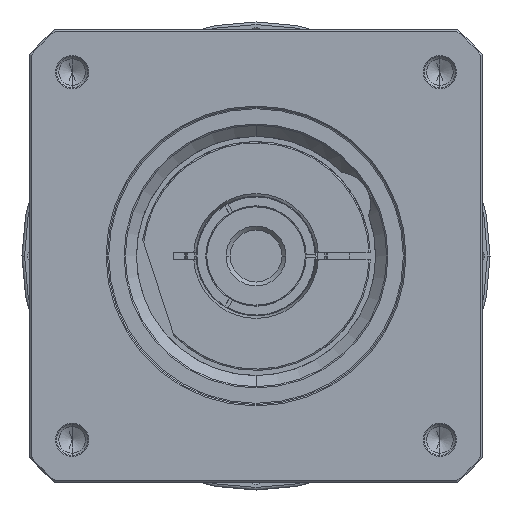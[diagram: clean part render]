
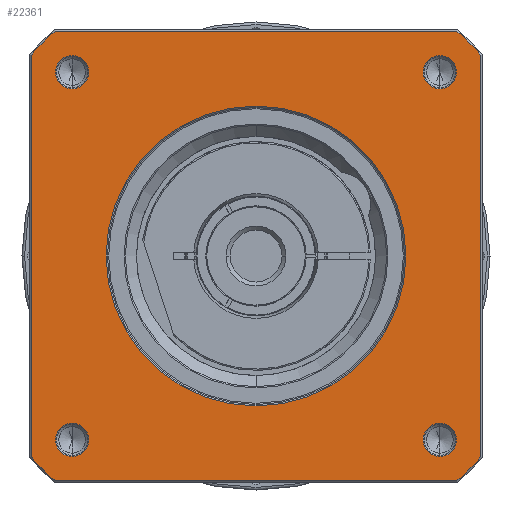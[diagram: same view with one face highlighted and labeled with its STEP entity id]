
A CAD part, left-side view. The second image highlights one B-rep face of the part: STEP entity #22361.
In plain terms, the highlighted planar face has unit normal (-1, 0, 0) as drawn and (0, 0, 1) by its records, which use the part's own axes.
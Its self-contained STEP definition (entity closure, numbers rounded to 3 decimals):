
#21112=CARTESIAN_POINT('',(0.,0.,
76.));
#21113=DIRECTION('',(0.,0.,-1.));
#21114=DIRECTION('',(0.,-1.,0.));
#21115=AXIS2_PLACEMENT_3D('',#21112,#21113,#21114);
#21117=CARTESIAN_POINT('',(0.,0.,
76.));
#21118=DIRECTION('',(0.,0.,-1.));
#21119=DIRECTION('',(0.,1.,0.));
#21120=AXIS2_PLACEMENT_3D('',#21117,#21118,#21119);
#21122=CARTESIAN_POINT('',(0.,0.,76.));
#21123=DIRECTION('',(0.,0.,1.));
#21124=DIRECTION('',(-0.746,-0.666,0.));
#21125=AXIS2_PLACEMENT_3D('',#21122,#21123,#21124);
#21137=DIRECTION('',(1.,0.,0.));
#21138=VECTOR('',#21137,154.58);
#21139=CARTESIAN_POINT('',(-77.29,-86.5,76.));
#21140=LINE('',#21139,#21138);
#21150=CARTESIAN_POINT('',(0.,0.,76.));
#21151=DIRECTION('',(0.,0.,1.));
#21152=DIRECTION('',(0.666,-0.746,0.));
#21153=AXIS2_PLACEMENT_3D('',#21150,#21151,#21152);
#21165=DIRECTION('',(0.,1.,0.));
#21166=VECTOR('',#21165,154.58);
#21167=CARTESIAN_POINT('',(86.5,-77.29,76.));
#21168=LINE('',#21167,#21166);
#21178=CARTESIAN_POINT('',(0.,0.,76.));
#21179=DIRECTION('',(0.,0.,1.));
#21180=DIRECTION('',(0.746,0.666,0.));
#21181=AXIS2_PLACEMENT_3D('',#21178,#21179,#21180);
#21193=DIRECTION('',(-1.,0.,0.));
#21194=VECTOR('',#21193,154.58);
#21195=CARTESIAN_POINT('',(77.29,86.5,76.));
#21196=LINE('',#21195,#21194);
#21201=CARTESIAN_POINT('',(0.,0.,76.));
#21202=DIRECTION('',(0.,0.,1.));
#21203=DIRECTION('',(-0.666,0.746,0.));
#21204=AXIS2_PLACEMENT_3D('',#21201,#21202,#21203);
#21221=DIRECTION('',(0.,-1.,0.));
#21222=VECTOR('',#21221,154.58);
#21223=CARTESIAN_POINT('',(-86.5,77.29,76.));
#21224=LINE('',#21223,#21222);
#21307=CARTESIAN_POINT('',(-70.711,70.711,76.));
#21308=DIRECTION('',(0.,0.,1.));
#21309=DIRECTION('',(-1.,0.,0.));
#21310=AXIS2_PLACEMENT_3D('',#21307,#21308,#21309);
#21325=CARTESIAN_POINT('',(-70.711,70.711,76.));
#21326=DIRECTION('',(0.,0.,1.));
#21327=DIRECTION('',(1.,0.,0.));
#21328=AXIS2_PLACEMENT_3D('',#21325,#21326,#21327);
#21361=CARTESIAN_POINT('',(70.711,70.711,76.));
#21362=DIRECTION('',(0.,0.,1.));
#21363=DIRECTION('',(-1.,0.,0.));
#21364=AXIS2_PLACEMENT_3D('',#21361,#21362,#21363);
#21379=CARTESIAN_POINT('',(70.711,70.711,76.));
#21380=DIRECTION('',(0.,0.,1.));
#21381=DIRECTION('',(1.,0.,0.));
#21382=AXIS2_PLACEMENT_3D('',#21379,#21380,#21381);
#21415=CARTESIAN_POINT('',(70.711,-70.711,76.));
#21416=DIRECTION('',(0.,0.,1.));
#21417=DIRECTION('',(-1.,0.,0.));
#21418=AXIS2_PLACEMENT_3D('',#21415,#21416,#21417);
#21433=CARTESIAN_POINT('',(70.711,-70.711,76.));
#21434=DIRECTION('',(0.,0.,1.));
#21435=DIRECTION('',(1.,0.,0.));
#21436=AXIS2_PLACEMENT_3D('',#21433,#21434,#21435);
#21469=CARTESIAN_POINT('',(-70.711,-70.711,76.));
#21470=DIRECTION('',(0.,0.,1.));
#21471=DIRECTION('',(-1.,0.,0.));
#21472=AXIS2_PLACEMENT_3D('',#21469,#21470,#21471);
#21487=CARTESIAN_POINT('',(-70.711,-70.711,76.));
#21488=DIRECTION('',(0.,0.,1.));
#21489=DIRECTION('',(1.,0.,0.));
#21490=AXIS2_PLACEMENT_3D('',#21487,#21488,#21489);
#21619=CARTESIAN_POINT('',(86.5,-77.29,76.));
#21620=CARTESIAN_POINT('',(86.5,77.29,76.));
#21621=VERTEX_POINT('',#21619);
#21622=VERTEX_POINT('',#21620);
#21627=CARTESIAN_POINT('',(77.29,-86.5,76.));
#21628=VERTEX_POINT('',#21627);
#21631=CARTESIAN_POINT('',(-77.29,-86.5,76.));
#21632=VERTEX_POINT('',#21631);
#21635=CARTESIAN_POINT('',(-86.5,-77.29,76.));
#21636=VERTEX_POINT('',#21635);
#21639=CARTESIAN_POINT('',(-86.5,77.29,76.));
#21640=VERTEX_POINT('',#21639);
#21643=CARTESIAN_POINT('',(-77.29,86.5,76.));
#21644=VERTEX_POINT('',#21643);
#21647=CARTESIAN_POINT('',(77.29,86.5,76.));
#21648=VERTEX_POINT('',#21647);
#21657=CARTESIAN_POINT('',(-77.111,70.711,76.));
#21658=CARTESIAN_POINT('',(-64.311,70.711,76.));
#21659=VERTEX_POINT('',#21657);
#21660=VERTEX_POINT('',#21658);
#21683=CARTESIAN_POINT('',(77.111,70.711,76.));
#21684=CARTESIAN_POINT('',(64.311,70.711,76.));
#21685=VERTEX_POINT('',#21683);
#21686=VERTEX_POINT('',#21684);
#21691=CARTESIAN_POINT('',(77.111,-70.711,76.));
#21692=CARTESIAN_POINT('',(64.311,-70.711,76.));
#21693=VERTEX_POINT('',#21691);
#21694=VERTEX_POINT('',#21692);
#21699=CARTESIAN_POINT('',(-64.311,-70.711,76.));
#21700=CARTESIAN_POINT('',(-77.111,-70.711,76.));
#21701=VERTEX_POINT('',#21699);
#21702=VERTEX_POINT('',#21700);
#21707=CARTESIAN_POINT('',(0.,-57.65,76.));
#21708=CARTESIAN_POINT('',(0.,57.65,
76.));
#21709=VERTEX_POINT('',#21707);
#21710=VERTEX_POINT('',#21708);
#22309=CARTESIAN_POINT('',(0.,0.,76.));
#22310=DIRECTION('',(0.,0.,1.));
#22311=DIRECTION('',(1.,0.,0.));
#22312=AXIS2_PLACEMENT_3D('',#22309,#22310,#22311);
#22313=PLANE('',#22312);
#22315=ORIENTED_EDGE('',*,*,#22314,.F.);
#22317=ORIENTED_EDGE('',*,*,#22316,.F.);
#22319=ORIENTED_EDGE('',*,*,#22318,.F.);
#22321=ORIENTED_EDGE('',*,*,#22320,.F.);
#22323=ORIENTED_EDGE('',*,*,#22322,.F.);
#22325=ORIENTED_EDGE('',*,*,#22324,.F.);
#22327=ORIENTED_EDGE('',*,*,#22326,.F.);
#22329=ORIENTED_EDGE('',*,*,#22328,.F.);
#22330=EDGE_LOOP('',(#22315,#22317,#22319,#22321,#22323,#22325,#22327,#22329));
#22331=FACE_OUTER_BOUND('',#22330,.F.);
#22332=ORIENTED_EDGE('',*,*,#22299,.F.);
#22334=ORIENTED_EDGE('',*,*,#22333,.F.);
#22335=EDGE_LOOP('',(#22332,#22334));
#22336=FACE_BOUND('',#22335,.F.);
#22338=ORIENTED_EDGE('',*,*,#22337,.T.);
#22340=ORIENTED_EDGE('',*,*,#22339,.T.);
#22341=EDGE_LOOP('',(#22338,#22340));
#22342=FACE_BOUND('',#22341,.F.);
#22344=ORIENTED_EDGE('',*,*,#22343,.T.);
#22346=ORIENTED_EDGE('',*,*,#22345,.T.);
#22347=EDGE_LOOP('',(#22344,#22346));
#22348=FACE_BOUND('',#22347,.F.);
#22350=ORIENTED_EDGE('',*,*,#22349,.T.);
#22352=ORIENTED_EDGE('',*,*,#22351,.T.);
#22353=EDGE_LOOP('',(#22350,#22352));
#22354=FACE_BOUND('',#22353,.F.);
#22356=ORIENTED_EDGE('',*,*,#22355,.T.);
#22358=ORIENTED_EDGE('',*,*,#22357,.T.);
#22359=EDGE_LOOP('',(#22356,#22358));
#22360=FACE_BOUND('',#22359,.F.);
#22361=ADVANCED_FACE('',(#22331,#22336,#22342,#22348,#22354,#22360),#22313,.T.);
#21116=CIRCLE('',#21115,57.65);
#21121=CIRCLE('',#21120,57.65);
#21126=CIRCLE('',#21125,116.);
#21154=CIRCLE('',#21153,116.);
#21182=CIRCLE('',#21181,116.);
#21205=CIRCLE('',#21204,116.);
#21311=CIRCLE('',#21310,6.4);
#21329=CIRCLE('',#21328,6.4);
#21365=CIRCLE('',#21364,6.4);
#21383=CIRCLE('',#21382,6.4);
#21419=CIRCLE('',#21418,6.4);
#21437=CIRCLE('',#21436,6.4);
#21473=CIRCLE('',#21472,6.4);
#21491=CIRCLE('',#21490,6.4);
#22299=EDGE_CURVE('',#21709,#21710,#21116,.T.);
#22314=EDGE_CURVE('',#21636,#21632,#21126,.T.);
#22316=EDGE_CURVE('',#21640,#21636,#21224,.T.);
#22318=EDGE_CURVE('',#21644,#21640,#21205,.T.);
#22320=EDGE_CURVE('',#21648,#21644,#21196,.T.);
#22322=EDGE_CURVE('',#21622,#21648,#21182,.T.);
#22324=EDGE_CURVE('',#21621,#21622,#21168,.T.);
#22326=EDGE_CURVE('',#21628,#21621,#21154,.T.);
#22328=EDGE_CURVE('',#21632,#21628,#21140,.T.);
#22333=EDGE_CURVE('',#21710,#21709,#21121,.T.);
#22337=EDGE_CURVE('',#21659,#21660,#21311,.T.);
#22339=EDGE_CURVE('',#21660,#21659,#21329,.T.);
#22343=EDGE_CURVE('',#21686,#21685,#21365,.T.);
#22345=EDGE_CURVE('',#21685,#21686,#21383,.T.);
#22349=EDGE_CURVE('',#21694,#21693,#21419,.T.);
#22351=EDGE_CURVE('',#21693,#21694,#21437,.T.);
#22355=EDGE_CURVE('',#21702,#21701,#21473,.T.);
#22357=EDGE_CURVE('',#21701,#21702,#21491,.T.);
